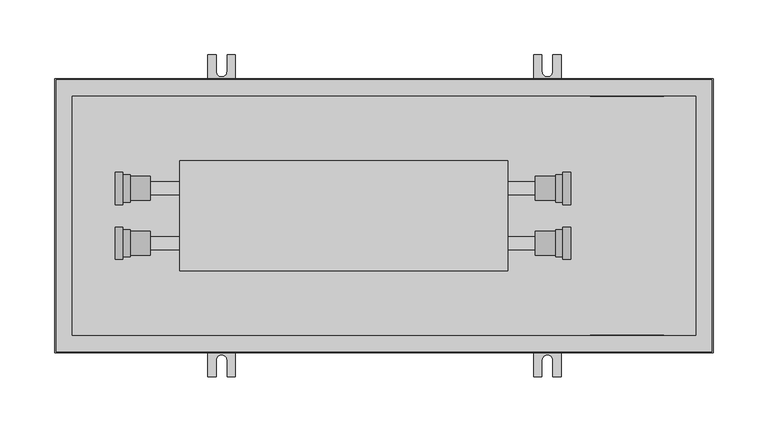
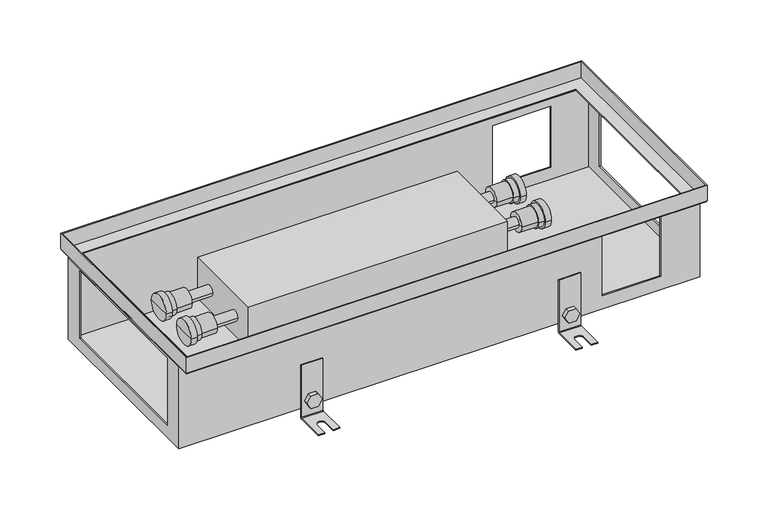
"""IFC4 building model written with IfcOpenShell, lengths in millimetres: proxy geometry, TECHNO_Конвектор встраиваемый_Usual_KVP-250_85-105-120 : KVP 250-120."""

from ifc_helpers import new_model, si_unit, point, frame, frame_2d, origin, place, context, project, spatial, polyline, circle_curve, ellipse_curve, trimmed, segment, composite_curve, outline, extrude, faceted_brep, source, transform, mapped, element, save
from ifc_brep_helpers import plane_surface, cylinder_surface, revolved_surface, advanced_brep


def mechanical_equipment_46b1b714(model_context):
    return source(origin(), model_context, "Body", "SolidModel", [
        extrude(outline(composite_curve([segment(trimmed(circle_curve(frame_2d((-110.5, 449.0)), 7.5), [point((-110.5, 441.5))], [point((-110.5, 456.5))], False, "CARTESIAN"), True, "CONTINUOUS"), segment(trimmed(circle_curve(frame_2d((-110.5, 449.0)), 7.5), [point((-110.5, 456.5))], [point((-110.5, 441.5))], False, "CARTESIAN"), True, "CONTINUOUS")], self_intersect=False)), frame((0.0, 110.2, 0.0), z_axis=(0.0, 1.0, 0.0), x_axis=(0.0, 0.0, 1.0)), (0.0, 0.0, 1.0), 1.5),
        extrude(outline(polyline([(-110.5, 440.339746), (-118.0, 444.669873), (-118.0, 453.330127), (-110.5, 457.660254), (-103.0, 453.330127), (-103.0, 444.669873), (-110.5, 440.339746)])), frame((0.0, 112.9, 0.0), z_axis=(0.0, 1.0, 0.0), x_axis=(0.0, 0.0, 1.0)), (0.0, 0.0, 1.0), 5.1),
        advanced_brep(
        [(461.5, 112.9, -65.5), (461.5, 111.7, -65.5), (461.5, 111.7, -128.5), (461.5, 113.7, -130.5), (461.5, 146.7, -130.5), (461.5, 146.7, -129.3), (461.5, 113.7, -129.3), (461.5, 112.9, -128.5), (436.5, 112.9, -65.5), (436.5, 112.9, -128.5), (436.5, 113.7, -129.3), (436.5, 146.7, -129.3), (436.5, 146.7, -130.5), (436.5, 113.7, -130.5), (436.5, 111.7, -128.5), (436.5, 111.7, -65.5), (454.0, 146.7, -129.3), (454.0, 131.7, -129.3), (444.0, 131.7, -129.3), (444.0, 146.7, -129.3), (444.0, 146.7, -130.5), (454.0, 146.7, -130.5), (444.0, 131.7, -130.5), (454.0, 131.7, -130.5)],
        [
            (0, 1),
            (1, 2),
            (2, 3, circle_curve(frame((461.5, 113.7, -128.5), z_axis=(1.0, 0.0, 0.0), x_axis=(0.0, 1.0, 0.0)), 2.0)),
            (3, 4),
            (4, 5),
            (5, 6),
            (6, 7, circle_curve(frame((461.5, 113.7, -128.5), z_axis=(-1.0, 0.0, 0.0), x_axis=(0.0, 1.0, 0.0)), 0.8)),
            (7, 0),
            (8, 9),
            (9, 10, circle_curve(frame((436.5, 113.7, -128.5), z_axis=(1.0, 0.0, 0.0), x_axis=(0.0, 1.0, 0.0)), 0.8)),
            (10, 11),
            (11, 12),
            (12, 13),
            (13, 14, circle_curve(frame((436.5, 113.7, -128.5), z_axis=(-1.0, 0.0, 0.0), x_axis=(0.0, 1.0, 0.0)), 2.0)),
            (14, 15),
            (15, 8),
            (7, 9),
            (8, 0),
            (6, 10),
            (5, 16),
            (16, 17),
            (17, 18, circle_curve(frame((449.0, 131.7, -129.3), z_axis=(0.0, 0.0, -1.0), x_axis=(1.0, 0.0, 0.0)), 5.0)),
            (18, 19),
            (19, 11),
            (19, 20),
            (20, 12),
            (4, 21),
            (21, 16),
            (3, 13),
            (20, 22),
            (22, 23, circle_curve(frame((449.0, 131.7, -130.5), z_axis=(0.0, 0.0, 1.0), x_axis=(1.0, 0.0, 0.0)), 5.0)),
            (23, 21),
            (2, 14),
            (1, 15),
            (18, 22),
            (23, 17),
        ],
        [
            plane_surface(frame((461.5, 112.9, -65.5), z_axis=(1.0, 0.0, 0.0), x_axis=(0.0, 0.0, -1.0))),
            plane_surface(frame((436.5, 112.9, -65.5), z_axis=(-1.0, 0.0, 0.0), x_axis=(0.0, 0.0, 1.0))),
            plane_surface(frame((461.5, 112.9, -65.5), z_axis=(0.0, 1.0, 0.0), x_axis=(-1.0, 0.0, 0.0))),
            revolved_surface(polyline([(436.5, 114.5, -128.5), (461.5, 114.5, -128.5)]), (436.5, 113.7, -128.5), (-1.0, 0.0, 0.0)),
            plane_surface(frame((461.5, 113.7, -129.3), z_axis=(0.0, 0.0, 1.0), x_axis=(-1.0, 0.0, 0.0))),
            plane_surface(frame((461.5, 146.7, -129.3), z_axis=(0.0, 1.0, 0.0), x_axis=(-1.0, 0.0, 0.0))),
            plane_surface(frame((461.5, 146.7, -130.5), z_axis=(0.0, 0.0, -1.0), x_axis=(-1.0, 0.0, 0.0))),
            cylinder_surface(frame((436.5, 113.7, -128.5), z_axis=(1.0, 0.0, 0.0), x_axis=(0.0, 1.0, 0.0)), 2.0),
            plane_surface(frame((461.5, 111.7, -128.5), z_axis=(0.0, -1.0, 0.0), x_axis=(-1.0, 0.0, 0.0))),
            plane_surface(frame((461.5, 111.7, -65.5), z_axis=(0.0, 0.0, 1.0), x_axis=(-1.0, 0.0, 0.0))),
            plane_surface(frame((444.0, 131.7, -129.3), z_axis=(1.0, 0.0, 0.0), x_axis=(0.0, 0.0, -1.0))),
            plane_surface(frame((454.0, 146.7, -129.3), z_axis=(-1.0, 0.0, 0.0), x_axis=(0.0, 0.0, -1.0))),
            revolved_surface(polyline([(454.0, 131.7, -129.3), (454.0, 131.7, -130.5)]), (449.0, 131.7, -130.5), (0.0, 0.0, 1.0)),
        ],
        [
            (0, [[1, 2, 3, 4, 5, 6, 7, 8]]),
            (1, [[9, 10, 11, 12, 13, 14, 15, 16]]),
            (2, [[17, -9, 18, -8]]),
            (3, [[19, -10, -17, -7]]),
            (4, [[20, 21, 22, 23, 24, -11, -19, -6]]),
            (5, [[-24, 25, 26, -12]]),
            (5, [[27, 28, -20, -5]]),
            (6, [[29, -13, -26, 30, 31, 32, -27, -4]]),
            (7, [[33, -14, -29, -3]]),
            (8, [[34, -15, -33, -2]]),
            (9, [[-18, -16, -34, -1]]),
            (10, [[-30, -25, -23, 35]]),
            (11, [[-21, -28, -32, 36]]),
            (12, [[-22, -36, -31, -35]]),
        ],
    ),
        extrude(outline(composite_curve([segment(trimmed(circle_curve(frame_2d((-110.5, 449.0)), 7.5), [point((-110.5, 441.5))], [point((-110.5, 456.5))], False, "CARTESIAN"), True, "CONTINUOUS"), segment(trimmed(circle_curve(frame_2d((-110.5, 449.0)), 7.5), [point((-110.5, 456.5))], [point((-110.5, 441.5))], False, "CARTESIAN"), True, "CONTINUOUS")], self_intersect=False)), frame((0.0, -111.7, 0.0), z_axis=(0.0, 1.0, 0.0), x_axis=(0.0, 0.0, 1.0)), (0.0, 0.0, 1.0), 1.5),
        extrude(outline(polyline([(-110.5, 440.339746), (-118.0, 444.669873), (-118.0, 453.330127), (-110.5, 457.660254), (-103.0, 453.330127), (-103.0, 444.669873), (-110.5, 440.339746)])), frame((0.0, -118.0, 0.0), z_axis=(0.0, 1.0, 0.0), x_axis=(0.0, 0.0, 1.0)), (0.0, 0.0, 1.0), 5.1),
        advanced_brep(
        [(461.5, -112.9, -65.5), (461.5, -112.9, -128.5), (461.5, -113.7, -129.3), (461.5, -146.7, -129.3), (461.5, -146.7, -130.5), (461.5, -113.7, -130.5), (461.5, -111.7, -128.5), (461.5, -111.7, -65.5), (436.5, -112.9, -65.5), (436.5, -111.7, -65.5), (436.5, -111.7, -128.5), (436.5, -113.7, -130.5), (436.5, -146.7, -130.5), (436.5, -146.7, -129.3), (436.5, -113.7, -129.3), (436.5, -112.9, -128.5), (444.0, -146.7, -129.3), (444.0, -131.7, -129.3), (454.0, -131.7, -129.3), (454.0, -146.7, -129.3), (454.0, -146.7, -130.5), (444.0, -146.7, -130.5), (454.0, -131.7, -130.5), (444.0, -131.7, -130.5)],
        [
            (0, 1),
            (1, 2, circle_curve(frame((461.5, -113.7, -128.5), z_axis=(-1.0, 0.0, 0.0), x_axis=(0.0, -1.0, 0.0)), 0.8)),
            (2, 3),
            (3, 4),
            (4, 5),
            (5, 6, circle_curve(frame((461.5, -113.7, -128.5), z_axis=(1.0, 0.0, 0.0), x_axis=(0.0, -1.0, 0.0)), 2.0)),
            (6, 7),
            (7, 0),
            (8, 9),
            (9, 10),
            (10, 11, circle_curve(frame((436.5, -113.7, -128.5), z_axis=(-1.0, 0.0, 0.0), x_axis=(0.0, -1.0, 0.0)), 2.0)),
            (11, 12),
            (12, 13),
            (13, 14),
            (14, 15, circle_curve(frame((436.5, -113.7, -128.5), z_axis=(1.0, 0.0, 0.0), x_axis=(0.0, -1.0, 0.0)), 0.8)),
            (15, 8),
            (0, 8),
            (15, 1),
            (14, 2),
            (13, 16),
            (16, 17),
            (17, 18, circle_curve(frame((449.0, -131.7, -129.3), z_axis=(0.0, 0.0, -1.0), x_axis=(1.0, 0.0, 0.0)), 5.0)),
            (18, 19),
            (19, 3),
            (19, 20),
            (20, 4),
            (12, 21),
            (21, 16),
            (20, 22),
            (22, 23, circle_curve(frame((449.0, -131.7, -130.5), z_axis=(0.0, 0.0, 1.0), x_axis=(1.0, 0.0, 0.0)), 5.0)),
            (23, 21),
            (11, 5),
            (10, 6),
            (9, 7),
            (23, 17),
            (18, 22),
        ],
        [
            plane_surface(frame((461.5, -112.9, -65.5), z_axis=(1.0, 0.0, 0.0), x_axis=(0.0, 0.0, -1.0))),
            plane_surface(frame((436.5, -112.9, -65.5), z_axis=(-1.0, 0.0, 0.0), x_axis=(0.0, 0.0, 1.0))),
            plane_surface(frame((461.5, -112.9, -65.5), z_axis=(0.0, -1.0, 0.0), x_axis=(-1.0, 0.0, 0.0))),
            revolved_surface(polyline([(436.5, -114.5, -128.5), (461.5, -114.5, -128.5)]), (436.5, -113.7, -128.5), (-1.0, 0.0, 0.0)),
            plane_surface(frame((461.5, -113.7, -129.3), z_axis=(0.0, 0.0, 1.0), x_axis=(-1.0, 0.0, 0.0))),
            plane_surface(frame((461.5, -146.7, -129.3), z_axis=(0.0, -1.0, 0.0), x_axis=(-1.0, 0.0, 0.0))),
            plane_surface(frame((461.5, -146.7, -130.5), z_axis=(0.0, 0.0, -1.0), x_axis=(-1.0, 0.0, 0.0))),
            cylinder_surface(frame((436.5, -113.7, -128.5), z_axis=(1.0, 0.0, 0.0), x_axis=(0.0, -1.0, 0.0)), 2.0),
            plane_surface(frame((461.5, -111.7, -128.5), z_axis=(0.0, 1.0, 0.0), x_axis=(-1.0, 0.0, 0.0))),
            plane_surface(frame((461.5, -111.7, -65.5), z_axis=(0.0, 0.0, 1.0), x_axis=(-1.0, 0.0, 0.0))),
            plane_surface(frame((444.0, -131.7, -129.3), z_axis=(1.0, 0.0, 0.0), x_axis=(0.0, 0.0, -1.0))),
            plane_surface(frame((454.0, -146.7, -129.3), z_axis=(-1.0, 0.0, 0.0), x_axis=(0.0, 0.0, -1.0))),
            revolved_surface(polyline([(454.0, -131.7, -129.3), (454.0, -131.7, -130.5)]), (449.0, -131.7, -130.5), (0.0, 0.0, 1.0)),
        ],
        [
            (0, [[1, 2, 3, 4, 5, 6, 7, 8]]),
            (1, [[9, 10, 11, 12, 13, 14, 15, 16]]),
            (2, [[-1, 17, -16, 18]]),
            (3, [[-2, -18, -15, 19]]),
            (4, [[-3, -19, -14, 20, 21, 22, 23, 24]]),
            (5, [[-4, -24, 25, 26]]),
            (5, [[-13, 27, 28, -20]]),
            (6, [[-5, -26, 29, 30, 31, -27, -12, 32]]),
            (7, [[-6, -32, -11, 33]]),
            (8, [[-7, -33, -10, 34]]),
            (9, [[-8, -34, -9, -17]]),
            (10, [[35, -21, -28, -31]]),
            (11, [[36, -29, -25, -23]]),
            (12, [[-35, -30, -36, -22]]),
        ],
    ),
        extrude(outline(composite_curve([segment(trimmed(circle_curve(frame_2d((-110.5, 152.0)), 7.5), [point((-110.5, 144.5))], [point((-110.5, 159.5))], False, "CARTESIAN"), True, "CONTINUOUS"), segment(trimmed(circle_curve(frame_2d((-110.5, 152.0)), 7.5), [point((-110.5, 159.5))], [point((-110.5, 144.5))], False, "CARTESIAN"), True, "CONTINUOUS")], self_intersect=False)), frame((0.0, 110.2, 0.0), z_axis=(0.0, 1.0, 0.0), x_axis=(0.0, 0.0, 1.0)), (0.0, 0.0, 1.0), 1.5),
        extrude(outline(polyline([(-110.5, 143.339746), (-118.0, 147.669873), (-118.0, 156.330127), (-110.5, 160.660254), (-103.0, 156.330127), (-103.0, 147.669873), (-110.5, 143.339746)])), frame((0.0, 112.9, 0.0), z_axis=(0.0, 1.0, 0.0), x_axis=(0.0, 0.0, 1.0)), (0.0, 0.0, 1.0), 5.1),
        advanced_brep(
        [(164.5, 112.9, -65.5), (164.5, 111.7, -65.5), (164.5, 111.7, -128.5), (164.5, 113.7, -130.5), (164.5, 146.7, -130.5), (164.5, 146.7, -129.3), (164.5, 113.7, -129.3), (164.5, 112.9, -128.5), (139.5, 112.9, -65.5), (139.5, 112.9, -128.5), (139.5, 113.7, -129.3), (139.5, 146.7, -129.3), (139.5, 146.7, -130.5), (139.5, 113.7, -130.5), (139.5, 111.7, -128.5), (139.5, 111.7, -65.5), (157.0, 146.7, -129.3), (157.0, 131.7, -129.3), (147.0, 131.7, -129.3), (147.0, 146.7, -129.3), (147.0, 146.7, -130.5), (157.0, 146.7, -130.5), (147.0, 131.7, -130.5), (157.0, 131.7, -130.5)],
        [
            (0, 1),
            (1, 2),
            (2, 3, circle_curve(frame((164.5, 113.7, -128.5), z_axis=(1.0, 0.0, 0.0), x_axis=(0.0, 1.0, 0.0)), 2.0)),
            (3, 4),
            (4, 5),
            (5, 6),
            (6, 7, circle_curve(frame((164.5, 113.7, -128.5), z_axis=(-1.0, 0.0, 0.0), x_axis=(0.0, 1.0, 0.0)), 0.8)),
            (7, 0),
            (8, 9),
            (9, 10, circle_curve(frame((139.5, 113.7, -128.5), z_axis=(1.0, 0.0, 0.0), x_axis=(0.0, 1.0, 0.0)), 0.8)),
            (10, 11),
            (11, 12),
            (12, 13),
            (13, 14, circle_curve(frame((139.5, 113.7, -128.5), z_axis=(-1.0, 0.0, 0.0), x_axis=(0.0, 1.0, 0.0)), 2.0)),
            (14, 15),
            (15, 8),
            (7, 9),
            (8, 0),
            (6, 10),
            (5, 16),
            (16, 17),
            (17, 18, circle_curve(frame((152.0, 131.7, -129.3), z_axis=(0.0, 0.0, -1.0), x_axis=(1.0, 0.0, 0.0)), 5.0)),
            (18, 19),
            (19, 11),
            (19, 20),
            (20, 12),
            (4, 21),
            (21, 16),
            (3, 13),
            (20, 22),
            (22, 23, circle_curve(frame((152.0, 131.7, -130.5), z_axis=(0.0, 0.0, 1.0), x_axis=(1.0, 0.0, 0.0)), 5.0)),
            (23, 21),
            (2, 14),
            (1, 15),
            (18, 22),
            (23, 17),
        ],
        [
            plane_surface(frame((164.5, 112.9, -65.5), z_axis=(1.0, 0.0, 0.0), x_axis=(0.0, 0.0, -1.0))),
            plane_surface(frame((139.5, 112.9, -65.5), z_axis=(-1.0, 0.0, 0.0), x_axis=(0.0, 0.0, 1.0))),
            plane_surface(frame((164.5, 112.9, -65.5), z_axis=(0.0, 1.0, 0.0), x_axis=(-1.0, 0.0, 0.0))),
            revolved_surface(polyline([(139.5, 114.5, -128.5), (164.5, 114.5, -128.5)]), (139.5, 113.7, -128.5), (-1.0, 0.0, 0.0)),
            plane_surface(frame((164.5, 113.7, -129.3), z_axis=(0.0, 0.0, 1.0), x_axis=(-1.0, 0.0, 0.0))),
            plane_surface(frame((164.5, 146.7, -129.3), z_axis=(0.0, 1.0, 0.0), x_axis=(-1.0, 0.0, 0.0))),
            plane_surface(frame((164.5, 146.7, -130.5), z_axis=(0.0, 0.0, -1.0), x_axis=(-1.0, 0.0, 0.0))),
            cylinder_surface(frame((139.5, 113.7, -128.5), z_axis=(1.0, 0.0, 0.0), x_axis=(0.0, 1.0, 0.0)), 2.0),
            plane_surface(frame((164.5, 111.7, -128.5), z_axis=(0.0, -1.0, 0.0), x_axis=(-1.0, 0.0, 0.0))),
            plane_surface(frame((164.5, 111.7, -65.5), z_axis=(0.0, 0.0, 1.0), x_axis=(-1.0, 0.0, 0.0))),
            plane_surface(frame((147.0, 131.7, -129.3), z_axis=(1.0, 0.0, 0.0), x_axis=(0.0, 0.0, -1.0))),
            plane_surface(frame((157.0, 146.7, -129.3), z_axis=(-1.0, 0.0, 0.0), x_axis=(0.0, 0.0, -1.0))),
            revolved_surface(polyline([(157.0, 131.7, -129.3), (157.0, 131.7, -130.5)]), (152.0, 131.7, -130.5), (0.0, 0.0, 1.0)),
        ],
        [
            (0, [[1, 2, 3, 4, 5, 6, 7, 8]]),
            (1, [[9, 10, 11, 12, 13, 14, 15, 16]]),
            (2, [[17, -9, 18, -8]]),
            (3, [[19, -10, -17, -7]]),
            (4, [[20, 21, 22, 23, 24, -11, -19, -6]]),
            (5, [[-24, 25, 26, -12]]),
            (5, [[27, 28, -20, -5]]),
            (6, [[29, -13, -26, 30, 31, 32, -27, -4]]),
            (7, [[33, -14, -29, -3]]),
            (8, [[34, -15, -33, -2]]),
            (9, [[-18, -16, -34, -1]]),
            (10, [[-30, -25, -23, 35]]),
            (11, [[-21, -28, -32, 36]]),
            (12, [[-22, -36, -31, -35]]),
        ],
    ),
        extrude(outline(composite_curve([segment(trimmed(circle_curve(frame_2d((-110.5, 152.0)), 7.5), [point((-110.5, 144.5))], [point((-110.5, 159.5))], False, "CARTESIAN"), True, "CONTINUOUS"), segment(trimmed(circle_curve(frame_2d((-110.5, 152.0)), 7.5), [point((-110.5, 159.5))], [point((-110.5, 144.5))], False, "CARTESIAN"), True, "CONTINUOUS")], self_intersect=False)), frame((0.0, -111.7, 0.0), z_axis=(0.0, 1.0, 0.0), x_axis=(0.0, 0.0, 1.0)), (0.0, 0.0, 1.0), 1.5),
        extrude(outline(polyline([(-110.5, 143.339746), (-118.0, 147.669873), (-118.0, 156.330127), (-110.5, 160.660254), (-103.0, 156.330127), (-103.0, 147.669873), (-110.5, 143.339746)])), frame((0.0, -118.0, 0.0), z_axis=(0.0, 1.0, 0.0), x_axis=(0.0, 0.0, 1.0)), (0.0, 0.0, 1.0), 5.1),
        advanced_brep(
        [(164.5, -112.9, -65.5), (164.5, -112.9, -128.5), (164.5, -113.7, -129.3), (164.5, -146.7, -129.3), (164.5, -146.7, -130.5), (164.5, -113.7, -130.5), (164.5, -111.7, -128.5), (164.5, -111.7, -65.5), (139.5, -112.9, -65.5), (139.5, -111.7, -65.5), (139.5, -111.7, -128.5), (139.5, -113.7, -130.5), (139.5, -146.7, -130.5), (139.5, -146.7, -129.3), (139.5, -113.7, -129.3), (139.5, -112.9, -128.5), (147.0, -146.7, -129.3), (147.0, -131.7, -129.3), (157.0, -131.7, -129.3), (157.0, -146.7, -129.3), (157.0, -146.7, -130.5), (147.0, -146.7, -130.5), (157.0, -131.7, -130.5), (147.0, -131.7, -130.5)],
        [
            (0, 1),
            (1, 2, circle_curve(frame((164.5, -113.7, -128.5), z_axis=(-1.0, 0.0, 0.0), x_axis=(0.0, -1.0, 0.0)), 0.8)),
            (2, 3),
            (3, 4),
            (4, 5),
            (5, 6, circle_curve(frame((164.5, -113.7, -128.5), z_axis=(1.0, 0.0, 0.0), x_axis=(0.0, -1.0, 0.0)), 2.0)),
            (6, 7),
            (7, 0),
            (8, 9),
            (9, 10),
            (10, 11, circle_curve(frame((139.5, -113.7, -128.5), z_axis=(-1.0, 0.0, 0.0), x_axis=(0.0, -1.0, 0.0)), 2.0)),
            (11, 12),
            (12, 13),
            (13, 14),
            (14, 15, circle_curve(frame((139.5, -113.7, -128.5), z_axis=(1.0, 0.0, 0.0), x_axis=(0.0, -1.0, 0.0)), 0.8)),
            (15, 8),
            (0, 8),
            (15, 1),
            (14, 2),
            (13, 16),
            (16, 17),
            (17, 18, circle_curve(frame((152.0, -131.7, -129.3), z_axis=(0.0, 0.0, -1.0), x_axis=(1.0, 0.0, 0.0)), 5.0)),
            (18, 19),
            (19, 3),
            (19, 20),
            (20, 4),
            (12, 21),
            (21, 16),
            (20, 22),
            (22, 23, circle_curve(frame((152.0, -131.7, -130.5), z_axis=(0.0, 0.0, 1.0), x_axis=(1.0, 0.0, 0.0)), 5.0)),
            (23, 21),
            (11, 5),
            (10, 6),
            (9, 7),
            (23, 17),
            (18, 22),
        ],
        [
            plane_surface(frame((164.5, -112.9, -65.5), z_axis=(1.0, 0.0, 0.0), x_axis=(0.0, 0.0, -1.0))),
            plane_surface(frame((139.5, -112.9, -65.5), z_axis=(-1.0, 0.0, 0.0), x_axis=(0.0, 0.0, 1.0))),
            plane_surface(frame((164.5, -112.9, -65.5), z_axis=(0.0, -1.0, 0.0), x_axis=(-1.0, 0.0, 0.0))),
            revolved_surface(polyline([(139.5, -114.5, -128.5), (164.5, -114.5, -128.5)]), (139.5, -113.7, -128.5), (-1.0, 0.0, 0.0)),
            plane_surface(frame((164.5, -113.7, -129.3), z_axis=(0.0, 0.0, 1.0), x_axis=(-1.0, 0.0, 0.0))),
            plane_surface(frame((164.5, -146.7, -129.3), z_axis=(0.0, -1.0, 0.0), x_axis=(-1.0, 0.0, 0.0))),
            plane_surface(frame((164.5, -146.7, -130.5), z_axis=(0.0, 0.0, -1.0), x_axis=(-1.0, 0.0, 0.0))),
            cylinder_surface(frame((139.5, -113.7, -128.5), z_axis=(1.0, 0.0, 0.0), x_axis=(0.0, -1.0, 0.0)), 2.0),
            plane_surface(frame((164.5, -111.7, -128.5), z_axis=(0.0, 1.0, 0.0), x_axis=(-1.0, 0.0, 0.0))),
            plane_surface(frame((164.5, -111.7, -65.5), z_axis=(0.0, 0.0, 1.0), x_axis=(-1.0, 0.0, 0.0))),
            plane_surface(frame((147.0, -131.7, -129.3), z_axis=(1.0, 0.0, 0.0), x_axis=(0.0, 0.0, -1.0))),
            plane_surface(frame((157.0, -146.7, -129.3), z_axis=(-1.0, 0.0, 0.0), x_axis=(0.0, 0.0, -1.0))),
            revolved_surface(polyline([(157.0, -131.7, -129.3), (157.0, -131.7, -130.5)]), (152.0, -131.7, -130.5), (0.0, 0.0, 1.0)),
        ],
        [
            (0, [[1, 2, 3, 4, 5, 6, 7, 8]]),
            (1, [[9, 10, 11, 12, 13, 14, 15, 16]]),
            (2, [[-1, 17, -16, 18]]),
            (3, [[-2, -18, -15, 19]]),
            (4, [[-3, -19, -14, 20, 21, 22, 23, 24]]),
            (5, [[-4, -24, 25, 26]]),
            (5, [[-13, 27, 28, -20]]),
            (6, [[-5, -26, 29, 30, 31, -27, -12, 32]]),
            (7, [[-6, -32, -11, 33]]),
            (8, [[-7, -33, -10, 34]]),
            (9, [[-8, -34, -9, -17]]),
            (10, [[35, -21, -28, -31]]),
            (11, [[36, -29, -25, -23]]),
            (12, [[-35, -30, -36, -22]]),
        ],
    ),
        advanced_brep(
        [(87.0, 14.0, -48.5), (87.0, 36.0, -48.5), (87.0, 25.0, -48.5), (68.5, 14.0, -48.5), (68.5, 36.0, -48.5), (68.5, 12.5, -48.5), (68.5, 37.5, -48.5), (62.0, 12.5, -48.5), (62.0, 37.5, -48.5), (62.0, 10.3, -48.5), (62.0, 39.7, -48.5), (55.0, 10.3, -48.5), (55.0, 39.7, -48.5), (55.0, 25.0, -48.5)],
        [
            (0, 1, circle_curve(frame((87.0, 25.0, -48.5), z_axis=(1.0, 0.0, 0.0), x_axis=(0.0, 1.0, 0.0)), 11.0)),
            (1, 2),
            (2, 0),
            (1, 0, circle_curve(frame((87.0, 25.0, -48.5), z_axis=(1.0, 0.0, 0.0), x_axis=(0.0, 1.0, 0.0)), 11.0)),
            (3, 4, circle_curve(frame((68.5, 25.0, -48.5), z_axis=(1.0, 0.0, 0.0), x_axis=(0.0, 1.0, 0.0)), 11.0)),
            (4, 1),
            (0, 3),
            (4, 3, circle_curve(frame((68.5, 25.0, -48.5), z_axis=(1.0, 0.0, 0.0), x_axis=(0.0, 1.0, 0.0)), 11.0)),
            (5, 6, circle_curve(frame((68.5, 25.0, -48.5), z_axis=(1.0, 0.0, 0.0), x_axis=(0.0, 1.0, 0.0)), 12.5)),
            (6, 4),
            (3, 5),
            (6, 5, circle_curve(frame((68.5, 25.0, -48.5), z_axis=(1.0, 0.0, 0.0), x_axis=(0.0, 1.0, 0.0)), 12.5)),
            (7, 8, circle_curve(frame((62.0, 25.0, -48.5), z_axis=(1.0, 0.0, 0.0), x_axis=(0.0, 1.0, 0.0)), 12.5)),
            (8, 6),
            (5, 7),
            (8, 7, circle_curve(frame((62.0, 25.0, -48.5), z_axis=(1.0, 0.0, 0.0), x_axis=(0.0, 1.0, 0.0)), 12.5)),
            (9, 10, circle_curve(frame((62.0, 25.0, -48.5), z_axis=(1.0, 0.0, 0.0), x_axis=(0.0, 1.0, 0.0)), 14.7)),
            (10, 8),
            (7, 9),
            (10, 9, circle_curve(frame((62.0, 25.0, -48.5), z_axis=(1.0, 0.0, 0.0), x_axis=(0.0, 1.0, 0.0)), 14.7)),
            (11, 12, circle_curve(frame((55.0, 25.0, -48.5), z_axis=(1.0, 0.0, 0.0), x_axis=(0.0, 1.0, 0.0)), 14.7)),
            (12, 10),
            (9, 11),
            (12, 11, circle_curve(frame((55.0, 25.0, -48.5), z_axis=(1.0, 0.0, 0.0), x_axis=(0.0, 1.0, 0.0)), 14.7)),
            (13, 12),
            (11, 13),
        ],
        [
            plane_surface(frame((87.0, 25.0, -48.5), z_axis=(1.0, 0.0, 0.0), x_axis=(0.0, 1.0, 0.0))),
            cylinder_surface(frame((45.0, 25.0, -48.5), z_axis=(-1.0, 0.0, 0.0), x_axis=(0.0, 1.0, 0.0)), 11.0),
            plane_surface(frame((68.5, 25.0, -48.5), z_axis=(1.0, 0.0, 0.0), x_axis=(0.0, 1.0, 0.0))),
            cylinder_surface(frame((45.0, 25.0, -48.5), z_axis=(-1.0, 0.0, 0.0), x_axis=(0.0, 1.0, 0.0)), 12.5),
            plane_surface(frame((62.0, 25.0, -48.5), z_axis=(1.0, 0.0, 0.0), x_axis=(0.0, 1.0, 0.0))),
            cylinder_surface(frame((45.0, 25.0, -48.5), z_axis=(-1.0, 0.0, 0.0), x_axis=(0.0, 1.0, 0.0)), 14.7),
            plane_surface(frame((55.0, 25.0, -48.5), z_axis=(-1.0, 0.0, 0.0), x_axis=(0.0, 1.0, 0.0))),
        ],
        [
            (0, [[1, 2, 3]]),
            (0, [[4, -3, -2]]),
            (1, [[5, 6, -1, 7]]),
            (1, [[8, -7, -4, -6]]),
            (2, [[9, 10, -5, 11]]),
            (2, [[12, -11, -8, -10]]),
            (3, [[13, 14, -9, 15]]),
            (3, [[16, -15, -12, -14]]),
            (4, [[17, 18, -13, 19]]),
            (4, [[20, -19, -16, -18]]),
            (5, [[21, 22, -17, 23]]),
            (5, [[24, -23, -20, -22]]),
            (6, [[25, -21, 26]]),
            (6, [[-26, -24, -25]]),
        ],
    ),
        advanced_brep(
        [(87.0, -36.0, -48.5), (87.0, -14.0, -48.5), (87.0, -25.0, -48.5), (68.5, -36.0, -48.5), (68.5, -14.0, -48.5), (68.5, -37.5, -48.5), (68.5, -12.5, -48.5), (62.0, -37.5, -48.5), (62.0, -12.5, -48.5), (62.0, -39.7, -48.5), (62.0, -10.3, -48.5), (55.0, -39.7, -48.5), (55.0, -10.3, -48.5), (55.0, -25.0, -48.5)],
        [
            (0, 1, circle_curve(frame((87.0, -25.0, -48.5), z_axis=(1.0, 0.0, 0.0), x_axis=(0.0, 1.0, 0.0)), 11.0)),
            (1, 2),
            (2, 0),
            (1, 0, circle_curve(frame((87.0, -25.0, -48.5), z_axis=(1.0, 0.0, 0.0), x_axis=(0.0, 1.0, 0.0)), 11.0)),
            (3, 4, circle_curve(frame((68.5, -25.0, -48.5), z_axis=(1.0, 0.0, 0.0), x_axis=(0.0, 1.0, 0.0)), 11.0)),
            (4, 1),
            (0, 3),
            (4, 3, circle_curve(frame((68.5, -25.0, -48.5), z_axis=(1.0, 0.0, 0.0), x_axis=(0.0, 1.0, 0.0)), 11.0)),
            (5, 6, circle_curve(frame((68.5, -25.0, -48.5), z_axis=(1.0, 0.0, 0.0), x_axis=(0.0, 1.0, 0.0)), 12.5)),
            (6, 4),
            (3, 5),
            (6, 5, circle_curve(frame((68.5, -25.0, -48.5), z_axis=(1.0, 0.0, 0.0), x_axis=(0.0, 1.0, 0.0)), 12.5)),
            (7, 8, circle_curve(frame((62.0, -25.0, -48.5), z_axis=(1.0, 0.0, 0.0), x_axis=(0.0, 1.0, 0.0)), 12.5)),
            (8, 6),
            (5, 7),
            (8, 7, circle_curve(frame((62.0, -25.0, -48.5), z_axis=(1.0, 0.0, 0.0), x_axis=(0.0, 1.0, 0.0)), 12.5)),
            (9, 10, circle_curve(frame((62.0, -25.0, -48.5), z_axis=(1.0, 0.0, 0.0), x_axis=(0.0, 1.0, 0.0)), 14.7)),
            (10, 8),
            (7, 9),
            (10, 9, circle_curve(frame((62.0, -25.0, -48.5), z_axis=(1.0, 0.0, 0.0), x_axis=(0.0, 1.0, 0.0)), 14.7)),
            (11, 12, circle_curve(frame((55.0, -25.0, -48.5), z_axis=(1.0, 0.0, 0.0), x_axis=(0.0, 1.0, 0.0)), 14.7)),
            (12, 10),
            (9, 11),
            (12, 11, circle_curve(frame((55.0, -25.0, -48.5), z_axis=(1.0, 0.0, 0.0), x_axis=(0.0, 1.0, 0.0)), 14.7)),
            (13, 12),
            (11, 13),
        ],
        [
            plane_surface(frame((87.0, -25.0, -48.5), z_axis=(1.0, 0.0, 0.0), x_axis=(0.0, 1.0, 0.0))),
            cylinder_surface(frame((45.0, -25.0, -48.5), z_axis=(-1.0, 0.0, 0.0), x_axis=(0.0, 1.0, 0.0)), 11.0),
            plane_surface(frame((68.5, -25.0, -48.5), z_axis=(1.0, 0.0, 0.0), x_axis=(0.0, 1.0, 0.0))),
            cylinder_surface(frame((45.0, -25.0, -48.5), z_axis=(-1.0, 0.0, 0.0), x_axis=(0.0, 1.0, 0.0)), 12.5),
            plane_surface(frame((62.0, -25.0, -48.5), z_axis=(1.0, 0.0, 0.0), x_axis=(0.0, 1.0, 0.0))),
            cylinder_surface(frame((45.0, -25.0, -48.5), z_axis=(-1.0, 0.0, 0.0), x_axis=(0.0, 1.0, 0.0)), 14.7),
            plane_surface(frame((55.0, -25.0, -48.5), z_axis=(-1.0, 0.0, 0.0), x_axis=(0.0, 1.0, 0.0))),
        ],
        [
            (0, [[1, 2, 3]]),
            (0, [[4, -3, -2]]),
            (1, [[5, 6, -1, 7]]),
            (1, [[8, -7, -4, -6]]),
            (2, [[9, 10, -5, 11]]),
            (2, [[12, -11, -8, -10]]),
            (3, [[13, 14, -9, 15]]),
            (3, [[16, -15, -12, -14]]),
            (4, [[17, 18, -13, 19]]),
            (4, [[20, -19, -16, -18]]),
            (5, [[21, 22, -17, 23]]),
            (5, [[24, -23, -20, -22]]),
            (6, [[25, -21, 26]]),
            (6, [[-26, -24, -25]]),
        ],
    ),
        extrude(outline(polyline([(413.0, 50.0), (413.0, -50.0), (114.0, -50.0), (114.0, 50.0), (413.0, 50.0)])), frame((0.0, 0.0, -73.5), z_axis=(0.0, 0.0, 1.0), x_axis=(1.0, 0.0, 0.0)), (0.0, 0.0, 1.0), 50.0),
        advanced_brep(
        [(438.0, 25.0, -48.5), (438.0, 36.0, -48.5), (438.0, 14.0, -48.5), (456.5, 36.0, -48.5), (456.5, 14.0, -48.5), (456.5, 37.5, -48.5), (456.5, 12.5, -48.5), (463.0, 37.5, -48.5), (463.0, 12.5, -48.5), (463.0, 39.7, -48.5), (463.0, 10.3, -48.5), (470.0, 39.7, -48.5), (470.0, 10.3, -48.5), (470.0, 25.0, -48.5)],
        [
            (0, 1),
            (1, 2, circle_curve(frame((438.0, 25.0, -48.5), z_axis=(-1.0, 0.0, 0.0), x_axis=(0.0, 1.0, 0.0)), 11.0)),
            (2, 0),
            (2, 1, circle_curve(frame((438.0, 25.0, -48.5), z_axis=(-1.0, 0.0, 0.0), x_axis=(0.0, 1.0, 0.0)), 11.0)),
            (1, 3),
            (3, 4, circle_curve(frame((456.5, 25.0, -48.5), z_axis=(-1.0, 0.0, 0.0), x_axis=(0.0, 1.0, 0.0)), 11.0)),
            (4, 2),
            (4, 3, circle_curve(frame((456.5, 25.0, -48.5), z_axis=(-1.0, 0.0, 0.0), x_axis=(0.0, 1.0, 0.0)), 11.0)),
            (3, 5),
            (5, 6, circle_curve(frame((456.5, 25.0, -48.5), z_axis=(-1.0, 0.0, 0.0), x_axis=(0.0, 1.0, 0.0)), 12.5)),
            (6, 4),
            (6, 5, circle_curve(frame((456.5, 25.0, -48.5), z_axis=(-1.0, 0.0, 0.0), x_axis=(0.0, 1.0, 0.0)), 12.5)),
            (5, 7),
            (7, 8, circle_curve(frame((463.0, 25.0, -48.5), z_axis=(-1.0, 0.0, 0.0), x_axis=(0.0, 1.0, 0.0)), 12.5)),
            (8, 6),
            (8, 7, circle_curve(frame((463.0, 25.0, -48.5), z_axis=(-1.0, 0.0, 0.0), x_axis=(0.0, 1.0, 0.0)), 12.5)),
            (7, 9),
            (9, 10, circle_curve(frame((463.0, 25.0, -48.5), z_axis=(-1.0, 0.0, 0.0), x_axis=(0.0, 1.0, 0.0)), 14.7)),
            (10, 8),
            (10, 9, circle_curve(frame((463.0, 25.0, -48.5), z_axis=(-1.0, 0.0, 0.0), x_axis=(0.0, 1.0, 0.0)), 14.7)),
            (9, 11),
            (11, 12, circle_curve(frame((470.0, 25.0, -48.5), z_axis=(-1.0, 0.0, 0.0), x_axis=(0.0, 1.0, 0.0)), 14.7)),
            (12, 10),
            (12, 11, circle_curve(frame((470.0, 25.0, -48.5), z_axis=(-1.0, 0.0, 0.0), x_axis=(0.0, 1.0, 0.0)), 14.7)),
            (11, 13),
            (13, 12),
        ],
        [
            plane_surface(frame((438.0, 25.0, -48.5), z_axis=(-1.0, 0.0, 0.0), x_axis=(0.0, 1.0, 0.0))),
            cylinder_surface(frame((470.0, 25.0, -48.5), z_axis=(-1.0, 0.0, 0.0), x_axis=(0.0, 1.0, 0.0)), 11.0),
            plane_surface(frame((456.5, 25.0, -48.5), z_axis=(-1.0, 0.0, 0.0), x_axis=(0.0, 1.0, 0.0))),
            cylinder_surface(frame((470.0, 25.0, -48.5), z_axis=(-1.0, 0.0, 0.0), x_axis=(0.0, 1.0, 0.0)), 12.5),
            plane_surface(frame((463.0, 25.0, -48.5), z_axis=(-1.0, 0.0, 0.0), x_axis=(0.0, 1.0, 0.0))),
            cylinder_surface(frame((470.0, 25.0, -48.5), z_axis=(-1.0, 0.0, 0.0), x_axis=(0.0, 1.0, 0.0)), 14.7),
            plane_surface(frame((470.0, 25.0, -48.5), z_axis=(1.0, 0.0, 0.0), x_axis=(0.0, 1.0, 0.0))),
        ],
        [
            (0, [[1, 2, 3]]),
            (0, [[-3, 4, -1]]),
            (1, [[-2, 5, 6, 7]]),
            (1, [[-4, -7, 8, -5]]),
            (2, [[-6, 9, 10, 11]]),
            (2, [[-8, -11, 12, -9]]),
            (3, [[-10, 13, 14, 15]]),
            (3, [[-12, -15, 16, -13]]),
            (4, [[-14, 17, 18, 19]]),
            (4, [[-16, -19, 20, -17]]),
            (5, [[-18, 21, 22, 23]]),
            (5, [[-20, -23, 24, -21]]),
            (6, [[-22, 25, 26]]),
            (6, [[-24, -26, -25]]),
        ],
    ),
        advanced_brep(
        [(438.0, -25.0, -48.5), (438.0, -14.0, -48.5), (438.0, -36.0, -48.5), (456.5, -14.0, -48.5), (456.5, -36.0, -48.5), (456.5, -12.5, -48.5), (456.5, -37.5, -48.5), (463.0, -12.5, -48.5), (463.0, -37.5, -48.5), (463.0, -10.3, -48.5), (463.0, -39.7, -48.5), (470.0, -10.3, -48.5), (470.0, -39.7, -48.5), (470.0, -25.0, -48.5)],
        [
            (0, 1),
            (1, 2, circle_curve(frame((438.0, -25.0, -48.5), z_axis=(-1.0, 0.0, 0.0), x_axis=(0.0, 1.0, 0.0)), 11.0)),
            (2, 0),
            (2, 1, circle_curve(frame((438.0, -25.0, -48.5), z_axis=(-1.0, 0.0, 0.0), x_axis=(0.0, 1.0, 0.0)), 11.0)),
            (1, 3),
            (3, 4, circle_curve(frame((456.5, -25.0, -48.5), z_axis=(-1.0, 0.0, 0.0), x_axis=(0.0, 1.0, 0.0)), 11.0)),
            (4, 2),
            (4, 3, circle_curve(frame((456.5, -25.0, -48.5), z_axis=(-1.0, 0.0, 0.0), x_axis=(0.0, 1.0, 0.0)), 11.0)),
            (3, 5),
            (5, 6, circle_curve(frame((456.5, -25.0, -48.5), z_axis=(-1.0, 0.0, 0.0), x_axis=(0.0, 1.0, 0.0)), 12.5)),
            (6, 4),
            (6, 5, circle_curve(frame((456.5, -25.0, -48.5), z_axis=(-1.0, 0.0, 0.0), x_axis=(0.0, 1.0, 0.0)), 12.5)),
            (5, 7),
            (7, 8, circle_curve(frame((463.0, -25.0, -48.5), z_axis=(-1.0, 0.0, 0.0), x_axis=(0.0, 1.0, 0.0)), 12.5)),
            (8, 6),
            (8, 7, circle_curve(frame((463.0, -25.0, -48.5), z_axis=(-1.0, 0.0, 0.0), x_axis=(0.0, 1.0, 0.0)), 12.5)),
            (7, 9),
            (9, 10, circle_curve(frame((463.0, -25.0, -48.5), z_axis=(-1.0, 0.0, 0.0), x_axis=(0.0, 1.0, 0.0)), 14.7)),
            (10, 8),
            (10, 9, circle_curve(frame((463.0, -25.0, -48.5), z_axis=(-1.0, 0.0, 0.0), x_axis=(0.0, 1.0, 0.0)), 14.7)),
            (9, 11),
            (11, 12, circle_curve(frame((470.0, -25.0, -48.5), z_axis=(-1.0, 0.0, 0.0), x_axis=(0.0, 1.0, 0.0)), 14.7)),
            (12, 10),
            (12, 11, circle_curve(frame((470.0, -25.0, -48.5), z_axis=(-1.0, 0.0, 0.0), x_axis=(0.0, 1.0, 0.0)), 14.7)),
            (11, 13),
            (13, 12),
        ],
        [
            plane_surface(frame((438.0, -25.0, -48.5), z_axis=(-1.0, 0.0, 0.0), x_axis=(0.0, 1.0, 0.0))),
            cylinder_surface(frame((470.0, -25.0, -48.5), z_axis=(-1.0, 0.0, 0.0), x_axis=(0.0, 1.0, 0.0)), 11.0),
            plane_surface(frame((456.5, -25.0, -48.5), z_axis=(-1.0, 0.0, 0.0), x_axis=(0.0, 1.0, 0.0))),
            cylinder_surface(frame((470.0, -25.0, -48.5), z_axis=(-1.0, 0.0, 0.0), x_axis=(0.0, 1.0, 0.0)), 12.5),
            plane_surface(frame((463.0, -25.0, -48.5), z_axis=(-1.0, 0.0, 0.0), x_axis=(0.0, 1.0, 0.0))),
            cylinder_surface(frame((470.0, -25.0, -48.5), z_axis=(-1.0, 0.0, 0.0), x_axis=(0.0, 1.0, 0.0)), 14.7),
            plane_surface(frame((470.0, -25.0, -48.5), z_axis=(1.0, 0.0, 0.0), x_axis=(0.0, 1.0, 0.0))),
        ],
        [
            (0, [[1, 2, 3]]),
            (0, [[-3, 4, -1]]),
            (1, [[-2, 5, 6, 7]]),
            (1, [[-4, -7, 8, -5]]),
            (2, [[-6, 9, 10, 11]]),
            (2, [[-8, -11, 12, -9]]),
            (3, [[-10, 13, 14, 15]]),
            (3, [[-12, -15, 16, -13]]),
            (4, [[-14, 17, 18, 19]]),
            (4, [[-16, -19, 20, -17]]),
            (5, [[-18, 21, 22, 23]]),
            (5, [[-20, -23, 24, -21]]),
            (6, [[-22, 25, 26]]),
            (6, [[-24, -26, -25]]),
        ],
    ),
        extrude(outline(composite_curve([segment(trimmed(circle_curve(frame_2d((25.0, -48.5)), 6.0), [point((19.0, -48.5))], [point((31.0, -48.5))], False, "CARTESIAN"), True, "CONTINUOUS"), segment(trimmed(circle_curve(frame_2d((25.0, -48.5)), 6.0), [point((31.0, -48.5))], [point((19.0, -48.5))], False, "CARTESIAN"), True, "CONTINUOUS")], self_intersect=False)), frame((87.0, 0.0, 0.0), z_axis=(1.0, 0.0, 0.0), x_axis=(0.0, 1.0, 0.0)), (0.0, 0.0, 1.0), 351.0),
        extrude(outline(composite_curve([segment(trimmed(circle_curve(frame_2d((-25.0, -48.5)), 6.0), [point((-31.0, -48.5))], [point((-19.0, -48.5))], False, "CARTESIAN"), True, "CONTINUOUS"), segment(trimmed(circle_curve(frame_2d((-25.0, -48.5)), 6.0), [point((-19.0, -48.5))], [point((-31.0, -48.5))], False, "CARTESIAN"), True, "CONTINUOUS")], self_intersect=False)), frame((87.0, 0.0, 0.0), z_axis=(1.0, 0.0, 0.0), x_axis=(0.0, 1.0, 0.0)), (0.0, 0.0, 1.0), 351.0),
        faceted_brep([(598.8, -109.0, -118.8), (598.8, 109.0, -118.8), (1.2, 109.0, -118.8), (1.2, -109.0, -118.8), (0.0, -110.2, -120.0), (0.0, 110.2, -120.0), (600.0, 110.2, -120.0), (600.0, -110.2, -120.0), (600.0, -110.2, -20.5), (0.0, -110.2, -20.5), (488.0, -110.2, -30.0), (555.0, -110.2, -30.0), (555.0, -110.2, -104.0), (488.0, -110.2, -104.0), (600.0, 110.2, -20.5), (600.0, 87.5, -23.0), (600.0, 87.5, -105.0), (600.0, -87.5, -105.0), (600.0, -87.5, -23.0), (0.0, 110.2, -20.5), (555.0, 110.2, -30.0), (488.0, 110.2, -30.0), (488.0, 110.2, -104.0), (555.0, 110.2, -104.0), (0.0, 87.5, -105.0), (0.0, 87.5, -23.0), (0.0, -87.5, -23.0), (0.0, -87.5, -105.0), (598.8, -109.0, -20.5), (598.8, 109.0, -20.5), (598.8, 87.5, -105.0), (598.8, 87.5, -23.0), (598.8, -87.5, -23.0), (598.8, -87.5, -105.0), (1.2, -109.0, -20.5), (555.0, -109.0, -30.0), (488.0, -109.0, -30.0), (488.0, -109.0, -104.0), (555.0, -109.0, -104.0), (1.2, 109.0, -20.5), (1.2, 87.5, -23.0), (1.2, 87.5, -105.0), (1.2, -87.5, -105.0), (1.2, -87.5, -23.0), (488.0, 109.0, -30.0), (555.0, 109.0, -30.0), (555.0, 109.0, -104.0), (488.0, 109.0, -104.0)], [[[0, 1, 2, 3]], [[4, 5, 6, 7]], [[4, 7, 8, 9], [10, 11, 12, 13]], [[7, 6, 14, 8], [15, 16, 17, 18]], [[6, 5, 19, 14], [20, 21, 22, 23]], [[5, 4, 9, 19], [24, 25, 26, 27]], [[28, 29, 1, 0], [30, 31, 32, 33]], [[34, 28, 0, 3], [35, 36, 37, 38]], [[39, 34, 3, 2], [40, 41, 42, 43]], [[29, 39, 2, 1], [44, 45, 46, 47]], [[8, 14, 19, 9], [29, 28, 34, 39]], [[35, 11, 10, 36]], [[20, 45, 44, 21]], [[36, 10, 13, 37]], [[21, 44, 47, 22]], [[37, 13, 12, 38]], [[22, 47, 46, 23]], [[11, 35, 38, 12]], [[45, 20, 23, 46]], [[15, 31, 30, 16]], [[31, 15, 18, 32]], [[32, 18, 17, 33]], [[16, 30, 33, 17]], [[24, 41, 40, 25]], [[25, 40, 43, 26]], [[26, 43, 42, 27]], [[41, 24, 27, 42]]]),
        advanced_brep(
        [(584.0, 109.0, -19.3), (584.0, 109.0, -20.5), (584.0, -109.0, -20.5), (584.0, -109.0, -19.3), (598.8, 123.8, 0.0), (598.8, 123.8, -19.3), (598.8, -123.8, -19.3), (598.8, -123.8, 0.0), (600.0, 125.0, -18.5), (600.0, 125.0, 0.0), (600.0, -125.0, 0.0), (600.0, -125.0, -18.5), (16.0, -109.0, -20.5), (16.0, -109.0, -19.3), (1.2, -123.8, -19.3), (1.2, -123.8, 0.0), (0.0, -125.0, 0.0), (0.0, -125.0, -18.5), (16.0, 109.0, -20.5), (16.0, 109.0, -19.3), (1.2, 123.8, -19.3), (1.2, 123.8, 0.0), (0.0, 125.0, 0.0), (0.0, 125.0, -18.5), (598.0, -123.0, -20.5), (2.0, -123.0, -20.5), (2.0, 123.0, -20.5), (598.0, 123.0, -20.5)],
        [
            (0, 1),
            (1, 2),
            (2, 3),
            (3, 0),
            (4, 5),
            (5, 6),
            (6, 7),
            (7, 4),
            (8, 9),
            (9, 10),
            (10, 11),
            (11, 8),
            (2, 12),
            (12, 13),
            (13, 3),
            (6, 14),
            (14, 15),
            (15, 7),
            (10, 16),
            (16, 17),
            (17, 11),
            (12, 18),
            (18, 19),
            (19, 13),
            (14, 20),
            (20, 21),
            (21, 15),
            (16, 22),
            (22, 23),
            (23, 17),
            (24, 25),
            (25, 26),
            (26, 27),
            (27, 24),
            (1, 18),
            (0, 19),
            (5, 20),
            (4, 21),
            (9, 22),
            (8, 23),
            (27, 8, ellipse_curve(frame((598.0, 123.0, -18.5), z_axis=(0.7071067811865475, -0.7071067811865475, 0.0), x_axis=(0.7071067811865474, 0.7071067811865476, 0.0)), 2.8284271, 2.0)),
            (11, 24, ellipse_curve(frame((598.0, -123.0, -18.5), z_axis=(0.7071067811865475, 0.7071067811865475, 0.0), x_axis=(-0.7071067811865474, 0.7071067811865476, 0.0)), 2.8284271, 2.0)),
            (17, 25, ellipse_curve(frame((2.0, -123.0, -18.5), z_axis=(0.7071067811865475, -0.7071067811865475, 0.0), x_axis=(0.7071067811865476, 0.7071067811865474, 0.0)), 2.8284271, 2.0)),
            (23, 26, ellipse_curve(frame((2.0, 123.0, -18.5), z_axis=(-0.7071067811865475, -0.7071067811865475, 0.0), x_axis=(0.7071067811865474, -0.7071067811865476, 0.0)), 2.8284271, 2.0)),
        ],
        [
            plane_surface(frame((584.0, 109.0, -20.5), z_axis=(-1.0, 0.0, 0.0), x_axis=(0.0, -1.0, 0.0))),
            plane_surface(frame((598.8, 123.8, -19.3), z_axis=(-1.0, 0.0, 0.0), x_axis=(0.0, -1.0, 0.0))),
            plane_surface(frame((600.0, 125.0, 0.0), z_axis=(1.0, 0.0, 0.0), x_axis=(0.0, -1.0, 0.0))),
            plane_surface(frame((584.0, -109.0, -20.5), z_axis=(0.0, 1.0, 0.0), x_axis=(-1.0, 0.0, 0.0))),
            plane_surface(frame((598.8, -123.8, -19.3), z_axis=(0.0, 1.0, 0.0), x_axis=(-1.0, 0.0, 0.0))),
            plane_surface(frame((600.0, -125.0, 0.0), z_axis=(0.0, -1.0, 0.0), x_axis=(-1.0, 0.0, 0.0))),
            plane_surface(frame((16.0, -109.0, -20.5), z_axis=(1.0, 0.0, 0.0), x_axis=(0.0, 1.0, 0.0))),
            plane_surface(frame((1.2, -123.8, -19.3), z_axis=(1.0, 0.0, 0.0), x_axis=(0.0, 1.0, 0.0))),
            plane_surface(frame((0.0, -125.0, 0.0), z_axis=(-1.0, 0.0, 0.0), x_axis=(0.0, 1.0, 0.0))),
            plane_surface(frame((2.0, 123.0, -20.5), z_axis=(0.0, 0.0, -1.0), x_axis=(1.0, 0.0, 0.0))),
            plane_surface(frame((16.0, 109.0, -20.5), z_axis=(0.0, -1.0, 0.0), x_axis=(1.0, 0.0, 0.0))),
            plane_surface(frame((16.0, 109.0, -19.3), z_axis=(0.0, 0.0, 1.0), x_axis=(1.0, 0.0, 0.0))),
            plane_surface(frame((1.2, 123.8, -19.3), z_axis=(0.0, -1.0, 0.0), x_axis=(1.0, 0.0, 0.0))),
            plane_surface(frame((1.2, 123.8, 0.0), z_axis=(0.0, 0.0, 1.0), x_axis=(1.0, 0.0, 0.0))),
            plane_surface(frame((0.0, 125.0, 0.0), z_axis=(0.0, 1.0, 0.0), x_axis=(1.0, 0.0, 0.0))),
            cylinder_surface(frame((598.0, 125.0, -18.5), z_axis=(0.0, 1.0, 0.0), x_axis=(1.0, 0.0, 0.0)), 2.0),
            cylinder_surface(frame((600.0, -123.0, -18.5), z_axis=(1.0, 0.0, 0.0), x_axis=(0.0, -1.0, 0.0)), 2.0),
            cylinder_surface(frame((2.0, -125.0, -18.5), z_axis=(0.0, -1.0, 0.0), x_axis=(-1.0, 0.0, 0.0)), 2.0),
            cylinder_surface(frame((0.0, 123.0, -18.5), z_axis=(-1.0, 0.0, 0.0), x_axis=(0.0, 1.0, 0.0)), 2.0),
        ],
        [
            (0, [[1, 2, 3, 4]]),
            (1, [[5, 6, 7, 8]]),
            (2, [[9, 10, 11, 12]]),
            (3, [[-3, 13, 14, 15]]),
            (4, [[-7, 16, 17, 18]]),
            (5, [[-11, 19, 20, 21]]),
            (6, [[-14, 22, 23, 24]]),
            (7, [[-17, 25, 26, 27]]),
            (8, [[-20, 28, 29, 30]]),
            (9, [[31, 32, 33, 34], [35, -22, -13, -2]]),
            (10, [[-23, -35, -1, 36]]),
            (11, [[37, -25, -16, -6], [-15, -24, -36, -4]]),
            (12, [[-26, -37, -5, 38]]),
            (13, [[39, -28, -19, -10], [-18, -27, -38, -8]]),
            (14, [[-29, -39, -9, 40]]),
            (15, [[41, -12, 42, -34]]),
            (16, [[-42, -21, 43, -31]]),
            (17, [[-43, -30, 44, -32]]),
            (18, [[-44, -40, -41, -33]]),
        ],
    ),
    ])


if __name__ == "__main__":
    model = new_model("IFC4")
    model_context = context("Model", 3, world=origin())
    ifc_project = project(units=[si_unit("LENGTHUNIT", "METRE", prefix="MILLI")], contexts=[model_context])
    site = spatial("IfcSite", under=ifc_project)
    building = spatial("IfcBuilding", under=site)
    placement = place(None, origin())
    mechanical_equipment_shape = mechanical_equipment_46b1b714(model_context)
    element("IfcBuildingElementProxy", 1, Name="TECHNO_Конвектор встраиваемый_Usual_KVP-250_85-105-120 : KVP 250-120", ObjectType="TECHNO_Конвектор встраиваемый_Usual_KVP-250_85-105-120 : KVP 250-120", at=placement, inside=building, context=model_context, shape_type="MappedRepresentation", body=[
        mapped(mechanical_equipment_shape, transform((0.0, 0.0, 0.0), x_axis=(1.0, 0.0, 0.0), y_axis=(0.0, 1.0, 0.0), z_axis=(0.0, 0.0, 1.0))),
    ])
    save(model, "model.ifc")
